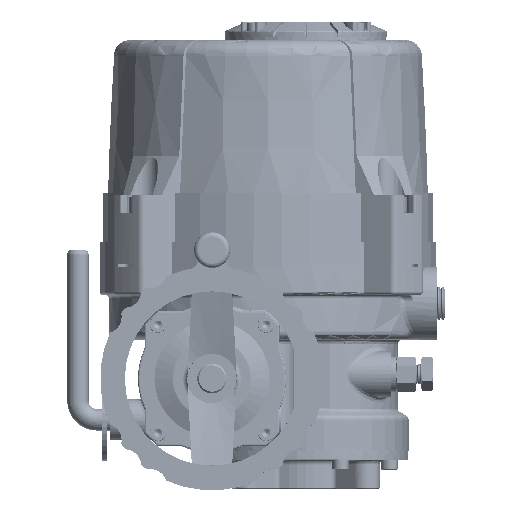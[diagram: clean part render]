
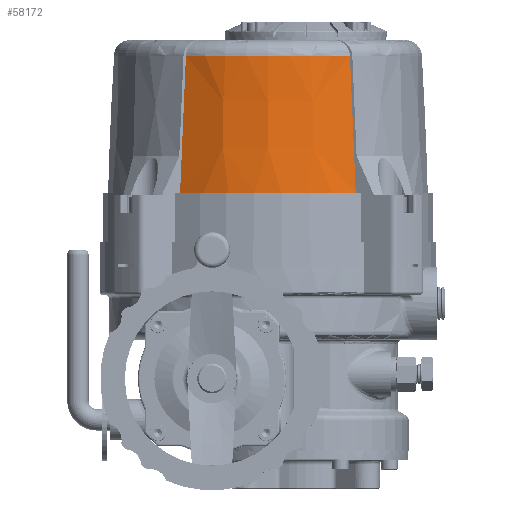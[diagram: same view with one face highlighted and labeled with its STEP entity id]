
A CAD part, top view. The second image highlights one B-rep face of the part: STEP entity #58172.
In plain terms, the highlighted conical face has half-angle 2.5 degrees and reference radius 93.857 mm.
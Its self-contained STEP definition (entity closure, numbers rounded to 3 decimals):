
#16497 = CIRCLE ( 'NONE', #16502, 93.857 ) ;
#16502 = AXIS2_PLACEMENT_3D ( 'NONE', #161834, #161835, #161836 ) ;
#17010 = CIRCLE ( 'NONE', #17019, 93.857 ) ;
#17019 = AXIS2_PLACEMENT_3D ( 'NONE', #162287, #162288, #162289 ) ;
#19182 = ORIENTED_EDGE ( 'NONE', *, *, #126883, .F. ) ;
#19185 = ORIENTED_EDGE ( 'NONE', *, *, #126892, .F. ) ;
#19187 = ORIENTED_EDGE ( 'NONE', *, *, #126906, .F. ) ;
#19190 = ORIENTED_EDGE ( 'NONE', *, *, #207946, .T. ) ;
#19193 = ORIENTED_EDGE ( 'NONE', *, *, #208579, .T. ) ;
#58172 = ADVANCED_FACE ( 'NONE', ( #150941 ), #209385, .T. ) ;
#66961 = CIRCLE ( 'NONE', #66963, 97.5 ) ;
#66963 = AXIS2_PLACEMENT_3D ( 'NONE', #69227, #69229, #69232 ) ;
#69163 = CARTESIAN_POINT ( 'NONE',  ( -51.032, 100.624, 80.216 ) ) ;
#69177 = CARTESIAN_POINT ( 'NONE',  ( -52.216, 72.812, 80.9 ) ) ;
#69200 = CARTESIAN_POINT ( 'NONE',  ( -53.394, 45., 81.58 ) ) ;
#69203 = CARTESIAN_POINT ( 'NONE',  ( -49.842, 128.436, 79.529 ) ) ;
#69212 = CARTESIAN_POINT ( 'NONE',  ( 51.032, 100.624, 80.216 ) ) ;
#69227 = CARTESIAN_POINT ( 'NONE',  ( 0., 45., 0. ) ) ;
#69229 = DIRECTION ( 'NONE',  ( 0., -1., 0. ) ) ;
#69232 = DIRECTION ( 'NONE',  ( 0., 0., -1. ) ) ;
#69240 = CARTESIAN_POINT ( 'NONE',  ( 52.216, 72.812, 80.9 ) ) ;
#69257 = CARTESIAN_POINT ( 'NONE',  ( 49.842, 128.436, 79.529 ) ) ;
#69259 = CARTESIAN_POINT ( 'NONE',  ( 53.394, 45., 81.58 ) ) ;
#126883 = EDGE_CURVE ( 'NONE', #133445, #203010, #144587, .T. ) ;
#126892 = EDGE_CURVE ( 'NONE', #202906, #133445, #66961, .T. ) ;
#126906 = EDGE_CURVE ( 'NONE', #133569, #202906, #144826, .T. ) ;
#133198 = EDGE_LOOP ( 'NONE', ( #19182, #19185, #19187, #19190, #19193 ) ) ;
#133445 = VERTEX_POINT ( 'NONE', #159975 ) ;
#133569 = VERTEX_POINT ( 'NONE', #160298 ) ;
#134052 = VERTEX_POINT ( 'NONE', #163056 ) ;
#144587 = B_SPLINE_CURVE_WITH_KNOTS ( 'NONE', 3,
 ( #69200, #69177, #69163, #69203 ),
 .UNSPECIFIED., .F., .F.,
 ( 4, 4 ),
 ( 0., 0.084 ),
 .UNSPECIFIED. ) ;
#144826 = B_SPLINE_CURVE_WITH_KNOTS ( 'NONE', 3,
 ( #69257, #69212, #69240, #69259 ),
 .UNSPECIFIED., .F., .F.,
 ( 4, 4 ),
 ( 0., 0.084 ),
 .UNSPECIFIED. ) ;
#150932 = DIRECTION ( 'NONE',  ( 0., 0., -1. ) ) ;
#150941 = FACE_OUTER_BOUND ( 'NONE', #133198, .T. ) ;
#150944 = DIRECTION ( 'NONE',  ( 0., -1., 0. ) ) ;
#150949 = CARTESIAN_POINT ( 'NONE',  ( 0., 128.436, 0. ) ) ;
#159975 = CARTESIAN_POINT ( 'NONE',  ( -53.394, 45., 81.58 ) ) ;
#160298 = CARTESIAN_POINT ( 'NONE',  ( 49.842, 128.436, 79.529 ) ) ;
#161322 = CARTESIAN_POINT ( 'NONE',  ( 53.394, 45., 81.58 ) ) ;
#161398 = CARTESIAN_POINT ( 'NONE',  ( -49.842, 128.436, 79.529 ) ) ;
#161834 = CARTESIAN_POINT ( 'NONE',  ( 0., 128.436, 0. ) ) ;
#161835 = DIRECTION ( 'NONE',  ( 0., -1., 0. ) ) ;
#161836 = DIRECTION ( 'NONE',  ( 0., 0., -1. ) ) ;
#162287 = CARTESIAN_POINT ( 'NONE',  ( 0., 128.436, 0. ) ) ;
#162288 = DIRECTION ( 'NONE',  ( 0., -1., 0. ) ) ;
#162289 = DIRECTION ( 'NONE',  ( 0., 0., -1. ) ) ;
#163056 = CARTESIAN_POINT ( 'NONE',  ( 0., 128.436, 93.857 ) ) ;
#202906 = VERTEX_POINT ( 'NONE', #161322 ) ;
#203010 = VERTEX_POINT ( 'NONE', #161398 ) ;
#207946 = EDGE_CURVE ( 'NONE', #133569, #134052, #16497, .T. ) ;
#208579 = EDGE_CURVE ( 'NONE', #134052, #203010, #17010, .T. ) ;
#209379 = AXIS2_PLACEMENT_3D ( 'NONE', #150949, #150944, #150932 ) ;
#209385 = CONICAL_SURFACE ( 'NONE', #209379, 93.857, 0.044 ) ;
